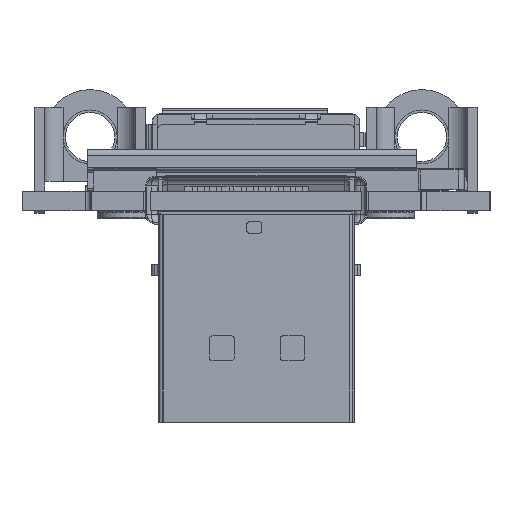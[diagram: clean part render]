
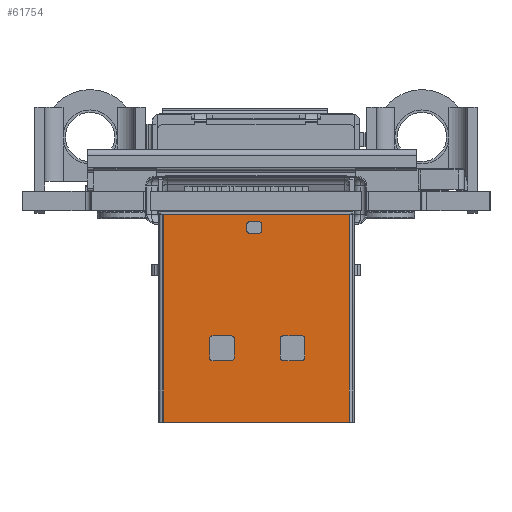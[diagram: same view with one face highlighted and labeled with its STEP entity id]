
A CAD part, front view. The second image highlights one B-rep face of the part: STEP entity #61754.
In plain terms, the highlighted planar face has unit normal (0, -1, 0) as drawn and (0, 0, 1) by its records, which use the part's own axes.
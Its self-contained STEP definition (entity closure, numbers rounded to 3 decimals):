
#55372 = VERTEX_POINT('',#55373);
#55373 = CARTESIAN_POINT('',(-11.75,11.89,0.));
#55379 = EDGE_CURVE('',#55380,#55372,#55382,.T.);
#55380 = VERTEX_POINT('',#55381);
#55381 = CARTESIAN_POINT('',(-11.95,11.69,0.));
#55382 = CIRCLE('',#55383,0.2);
#55383 = AXIS2_PLACEMENT_3D('',#55384,#55385,#55386);
#55384 = CARTESIAN_POINT('',(-11.75,11.69,0.));
#55385 = DIRECTION('',(0.,0.,-1.));
#55386 = DIRECTION('',(-1.,0.,0.));
#55414 = VERTEX_POINT('',#55415);
#55415 = CARTESIAN_POINT('',(-9.95,11.69,0.));
#55421 = EDGE_CURVE('',#55422,#55414,#55424,.T.);
#55422 = VERTEX_POINT('',#55423);
#55423 = CARTESIAN_POINT('',(-10.15,11.89,0.));
#55424 = CIRCLE('',#55425,0.2);
#55425 = AXIS2_PLACEMENT_3D('',#55426,#55427,#55428);
#55426 = CARTESIAN_POINT('',(-10.15,11.69,0.));
#55427 = DIRECTION('',(0.,0.,-1.));
#55428 = DIRECTION('',(-1.,0.,0.));
#55456 = VERTEX_POINT('',#55457);
#55457 = CARTESIAN_POINT('',(-10.15,9.89,0.));
#55463 = EDGE_CURVE('',#55464,#55456,#55466,.T.);
#55464 = VERTEX_POINT('',#55465);
#55465 = CARTESIAN_POINT('',(-9.95,10.09,0.));
#55466 = CIRCLE('',#55467,0.2);
#55467 = AXIS2_PLACEMENT_3D('',#55468,#55469,#55470);
#55468 = CARTESIAN_POINT('',(-10.15,10.09,0.));
#55469 = DIRECTION('',(0.,0.,-1.));
#55470 = DIRECTION('',(-1.,0.,0.));
#55489 = VERTEX_POINT('',#55490);
#55490 = CARTESIAN_POINT('',(-11.75,9.89,0.));
#55496 = EDGE_CURVE('',#55489,#55497,#55499,.T.);
#55497 = VERTEX_POINT('',#55498);
#55498 = CARTESIAN_POINT('',(-11.95,10.09,0.));
#55499 = CIRCLE('',#55500,0.2);
#55500 = AXIS2_PLACEMENT_3D('',#55501,#55502,#55503);
#55501 = CARTESIAN_POINT('',(-11.75,10.09,0.));
#55502 = DIRECTION('',(0.,0.,-1.));
#55503 = DIRECTION('',(-1.,0.,0.));
#55531 = VERTEX_POINT('',#55532);
#55532 = CARTESIAN_POINT('',(-5.99,9.89,0.));
#55538 = EDGE_CURVE('',#55531,#55539,#55541,.T.);
#55539 = VERTEX_POINT('',#55540);
#55540 = CARTESIAN_POINT('',(-6.19,10.09,0.));
#55541 = CIRCLE('',#55542,0.2);
#55542 = AXIS2_PLACEMENT_3D('',#55543,#55544,#55545);
#55543 = CARTESIAN_POINT('',(-5.99,10.09,0.));
#55544 = DIRECTION('',(0.,0.,-1.));
#55545 = DIRECTION('',(-1.,0.,0.));
#55582 = VERTEX_POINT('',#55583);
#55583 = CARTESIAN_POINT('',(-4.39,9.89,0.));
#55589 = EDGE_CURVE('',#55590,#55582,#55592,.T.);
#55590 = VERTEX_POINT('',#55591);
#55591 = CARTESIAN_POINT('',(-4.19,10.09,0.));
#55592 = CIRCLE('',#55593,0.2);
#55593 = AXIS2_PLACEMENT_3D('',#55594,#55595,#55596);
#55594 = CARTESIAN_POINT('',(-4.39,10.09,0.));
#55595 = DIRECTION('',(0.,0.,-1.));
#55596 = DIRECTION('',(-1.,0.,0.));
#55624 = VERTEX_POINT('',#55625);
#55625 = CARTESIAN_POINT('',(-4.19,11.69,0.));
#55631 = EDGE_CURVE('',#55632,#55624,#55634,.T.);
#55632 = VERTEX_POINT('',#55633);
#55633 = CARTESIAN_POINT('',(-4.39,11.89,0.));
#55634 = CIRCLE('',#55635,0.2);
#55635 = AXIS2_PLACEMENT_3D('',#55636,#55637,#55638);
#55636 = CARTESIAN_POINT('',(-4.39,11.69,0.));
#55637 = DIRECTION('',(0.,0.,-1.));
#55638 = DIRECTION('',(-1.,0.,0.));
#55666 = VERTEX_POINT('',#55667);
#55667 = CARTESIAN_POINT('',(-5.99,11.89,0.));
#55673 = EDGE_CURVE('',#55674,#55666,#55676,.T.);
#55674 = VERTEX_POINT('',#55675);
#55675 = CARTESIAN_POINT('',(-6.19,11.69,0.));
#55676 = CIRCLE('',#55677,0.2);
#55677 = AXIS2_PLACEMENT_3D('',#55678,#55679,#55680);
#55678 = CARTESIAN_POINT('',(-5.99,11.69,0.));
#55679 = DIRECTION('',(0.,0.,-1.));
#55680 = DIRECTION('',(-1.,0.,0.));
#55708 = VERTEX_POINT('',#55709);
#55709 = CARTESIAN_POINT('',(-8.234,1.523,0.));
#55715 = EDGE_CURVE('',#55716,#55708,#55718,.T.);
#55716 = VERTEX_POINT('',#55717);
#55717 = CARTESIAN_POINT('',(-8.434,1.323,0.));
#55718 = CIRCLE('',#55719,0.2);
#55719 = AXIS2_PLACEMENT_3D('',#55720,#55721,#55722);
#55720 = CARTESIAN_POINT('',(-8.234,1.323,
    0.));
#55721 = DIRECTION('',(0.,0.,-1.));
#55722 = DIRECTION('',(-1.,0.,0.));
#55741 = VERTEX_POINT('',#55742);
#55742 = CARTESIAN_POINT('',(-8.234,0.605,0.));
#55748 = EDGE_CURVE('',#55741,#55749,#55751,.T.);
#55749 = VERTEX_POINT('',#55750);
#55750 = CARTESIAN_POINT('',(-8.434,0.805,0.));
#55751 = CIRCLE('',#55752,0.2);
#55752 = AXIS2_PLACEMENT_3D('',#55753,#55754,#55755);
#55753 = CARTESIAN_POINT('',(-8.234,0.805,
    0.));
#55754 = DIRECTION('',(0.,0.,-1.));
#55755 = DIRECTION('',(-1.,0.,0.));
#55792 = VERTEX_POINT('',#55793);
#55793 = CARTESIAN_POINT('',(-7.419,0.605,0.));
#55799 = EDGE_CURVE('',#55800,#55792,#55802,.T.);
#55800 = VERTEX_POINT('',#55801);
#55801 = CARTESIAN_POINT('',(-7.219,0.805,0.));
#55802 = CIRCLE('',#55803,0.2);
#55803 = AXIS2_PLACEMENT_3D('',#55804,#55805,#55806);
#55804 = CARTESIAN_POINT('',(-7.419,0.805,
    0.));
#55805 = DIRECTION('',(0.,0.,-1.));
#55806 = DIRECTION('',(-1.,0.,0.));
#55834 = VERTEX_POINT('',#55835);
#55835 = CARTESIAN_POINT('',(-7.219,1.323,0.));
#55841 = EDGE_CURVE('',#55842,#55834,#55844,.T.);
#55842 = VERTEX_POINT('',#55843);
#55843 = CARTESIAN_POINT('',(-7.419,1.523,0.));
#55844 = CIRCLE('',#55845,0.2);
#55845 = AXIS2_PLACEMENT_3D('',#55846,#55847,#55848);
#55846 = CARTESIAN_POINT('',(-7.419,1.323,
    0.));
#55847 = DIRECTION('',(0.,0.,-1.));
#55848 = DIRECTION('',(-1.,0.,0.));
#55871 = EDGE_CURVE('',#55489,#55456,#55872,.T.);
#55872 = LINE('',#55873,#55874);
#55873 = CARTESIAN_POINT('',(-9.95,9.89,0.));
#55874 = VECTOR('',#55875,1.);
#55875 = DIRECTION('',(1.,0.,0.));
#55893 = EDGE_CURVE('',#55464,#55414,#55894,.T.);
#55894 = LINE('',#55895,#55896);
#55895 = CARTESIAN_POINT('',(-9.95,11.89,0.));
#55896 = VECTOR('',#55897,1.);
#55897 = DIRECTION('',(0.,1.,0.));
#55915 = EDGE_CURVE('',#55422,#55372,#55916,.T.);
#55916 = LINE('',#55917,#55918);
#55917 = CARTESIAN_POINT('',(-11.95,11.89,0.));
#55918 = VECTOR('',#55919,1.);
#55919 = DIRECTION('',(-1.,0.,0.));
#55930 = EDGE_CURVE('',#55380,#55497,#55931,.T.);
#55931 = LINE('',#55932,#55933);
#55932 = CARTESIAN_POINT('',(-11.95,9.89,0.));
#55933 = VECTOR('',#55934,1.);
#55934 = DIRECTION('',(0.,-1.,0.));
#55952 = EDGE_CURVE('',#55531,#55582,#55953,.T.);
#55953 = LINE('',#55954,#55955);
#55954 = CARTESIAN_POINT('',(-4.19,9.89,0.));
#55955 = VECTOR('',#55956,1.);
#55956 = DIRECTION('',(1.,0.,0.));
#55974 = EDGE_CURVE('',#55590,#55624,#55975,.T.);
#55975 = LINE('',#55976,#55977);
#55976 = CARTESIAN_POINT('',(-4.19,11.89,0.));
#55977 = VECTOR('',#55978,1.);
#55978 = DIRECTION('',(0.,1.,0.));
#55996 = EDGE_CURVE('',#55632,#55666,#55997,.T.);
#55997 = LINE('',#55998,#55999);
#55998 = CARTESIAN_POINT('',(-6.19,11.89,0.));
#55999 = VECTOR('',#56000,1.);
#56000 = DIRECTION('',(-1.,0.,0.));
#56025 = EDGE_CURVE('',#55674,#55539,#56026,.T.);
#56026 = LINE('',#56027,#56028);
#56027 = CARTESIAN_POINT('',(-6.19,9.89,0.));
#56028 = VECTOR('',#56029,1.);
#56029 = DIRECTION('',(0.,-1.,0.));
#56040 = EDGE_CURVE('',#55741,#55792,#56041,.T.);
#56041 = LINE('',#56042,#56043);
#56042 = CARTESIAN_POINT('',(-8.434,0.605,0.));
#56043 = VECTOR('',#56044,1.);
#56044 = DIRECTION('',(1.,0.,0.));
#56062 = EDGE_CURVE('',#55800,#55834,#56063,.T.);
#56063 = LINE('',#56064,#56065);
#56064 = CARTESIAN_POINT('',(-7.219,1.523,0.));
#56065 = VECTOR('',#56066,1.);
#56066 = DIRECTION('',(0.,1.,0.));
#56091 = EDGE_CURVE('',#55842,#55708,#56092,.T.);
#56092 = LINE('',#56093,#56094);
#56093 = CARTESIAN_POINT('',(-8.434,1.523,0.));
#56094 = VECTOR('',#56095,1.);
#56095 = DIRECTION('',(-1.,0.,0.));
#56106 = EDGE_CURVE('',#55716,#55749,#56107,.T.);
#56107 = LINE('',#56108,#56109);
#56108 = CARTESIAN_POINT('',(-8.434,1.523,0.));
#56109 = VECTOR('',#56110,1.);
#56110 = DIRECTION('',(0.,-1.,0.));
#56146 = VERTEX_POINT('',#56147);
#56147 = CARTESIAN_POINT('',(-15.55,0.,0.));
#56154 = EDGE_CURVE('',#56155,#56146,#56157,.T.);
#56155 = VERTEX_POINT('',#56156);
#56156 = CARTESIAN_POINT('',(-15.55,16.9,0.));
#56157 = LINE('',#56158,#56159);
#56158 = CARTESIAN_POINT('',(-15.55,16.9,0.));
#56159 = VECTOR('',#56160,1.);
#56160 = DIRECTION('',(0.,-1.,0.));
#56237 = VERTEX_POINT('',#56238);
#56238 = CARTESIAN_POINT('',(-0.4,16.9,0.));
#56245 = EDGE_CURVE('',#56246,#56237,#56248,.T.);
#56246 = VERTEX_POINT('',#56247);
#56247 = CARTESIAN_POINT('',(-0.4,0.,0.));
#56248 = LINE('',#56249,#56250);
#56249 = CARTESIAN_POINT('',(-0.4,16.9,0.));
#56250 = VECTOR('',#56251,1.);
#56251 = DIRECTION('',(0.,1.,0.));
#61754 = ADVANCED_FACE('',(#61755,#61765,#61775,#61785),#61801,.F.);
#61755 = FACE_BOUND('',#61756,.T.);
#61756 = EDGE_LOOP('',(#61757,#61758,#61759,#61760,#61761,#61762,#61763,
    #61764));
#61757 = ORIENTED_EDGE('',*,*,#56040,.F.);
#61758 = ORIENTED_EDGE('',*,*,#55748,.T.);
#61759 = ORIENTED_EDGE('',*,*,#56106,.F.);
#61760 = ORIENTED_EDGE('',*,*,#55715,.T.);
#61761 = ORIENTED_EDGE('',*,*,#56091,.F.);
#61762 = ORIENTED_EDGE('',*,*,#55841,.T.);
#61763 = ORIENTED_EDGE('',*,*,#56062,.F.);
#61764 = ORIENTED_EDGE('',*,*,#55799,.T.);
#61765 = FACE_BOUND('',#61766,.T.);
#61766 = EDGE_LOOP('',(#61767,#61768,#61769,#61770,#61771,#61772,#61773,
    #61774));
#61767 = ORIENTED_EDGE('',*,*,#55952,.F.);
#61768 = ORIENTED_EDGE('',*,*,#55538,.T.);
#61769 = ORIENTED_EDGE('',*,*,#56025,.F.);
#61770 = ORIENTED_EDGE('',*,*,#55673,.T.);
#61771 = ORIENTED_EDGE('',*,*,#55996,.F.);
#61772 = ORIENTED_EDGE('',*,*,#55631,.T.);
#61773 = ORIENTED_EDGE('',*,*,#55974,.F.);
#61774 = ORIENTED_EDGE('',*,*,#55589,.T.);
#61775 = FACE_BOUND('',#61776,.T.);
#61776 = EDGE_LOOP('',(#61777,#61778,#61779,#61780,#61781,#61782,#61783,
    #61784));
#61777 = ORIENTED_EDGE('',*,*,#55871,.F.);
#61778 = ORIENTED_EDGE('',*,*,#55496,.T.);
#61779 = ORIENTED_EDGE('',*,*,#55930,.F.);
#61780 = ORIENTED_EDGE('',*,*,#55379,.T.);
#61781 = ORIENTED_EDGE('',*,*,#55915,.F.);
#61782 = ORIENTED_EDGE('',*,*,#55421,.T.);
#61783 = ORIENTED_EDGE('',*,*,#55893,.F.);
#61784 = ORIENTED_EDGE('',*,*,#55463,.T.);
#61785 = FACE_BOUND('',#61786,.T.);
#61786 = EDGE_LOOP('',(#61787,#61793,#61794,#61800));
#61787 = ORIENTED_EDGE('',*,*,#61788,.T.);
#61788 = EDGE_CURVE('',#56146,#56246,#61789,.T.);
#61789 = LINE('',#61790,#61791);
#61790 = CARTESIAN_POINT('',(0.,0.,0.));
#61791 = VECTOR('',#61792,1.);
#61792 = DIRECTION('',(1.,0.,0.));
#61793 = ORIENTED_EDGE('',*,*,#56245,.T.);
#61794 = ORIENTED_EDGE('',*,*,#61795,.F.);
#61795 = EDGE_CURVE('',#56155,#56237,#61796,.T.);
#61796 = LINE('',#61797,#61798);
#61797 = CARTESIAN_POINT('',(0.,16.9,0.));
#61798 = VECTOR('',#61799,1.);
#61799 = DIRECTION('',(1.,0.,0.));
#61800 = ORIENTED_EDGE('',*,*,#56154,.T.);
#61801 = PLANE('',#61802);
#61802 = AXIS2_PLACEMENT_3D('',#61803,#61804,#61805);
#61803 = CARTESIAN_POINT('',(0.,16.9,0.));
#61804 = DIRECTION('',(0.,0.,-1.));
#61805 = DIRECTION('',(-1.,0.,0.));
